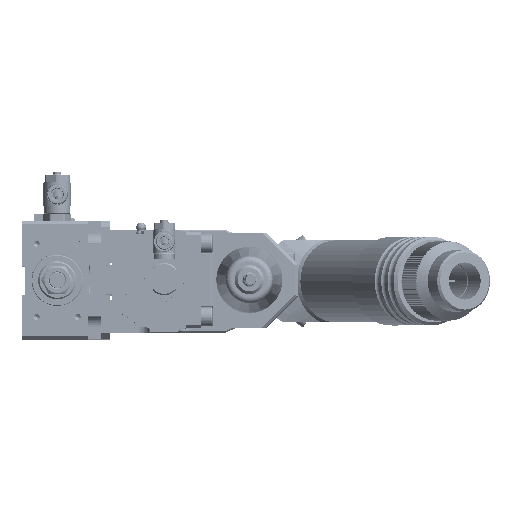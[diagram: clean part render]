
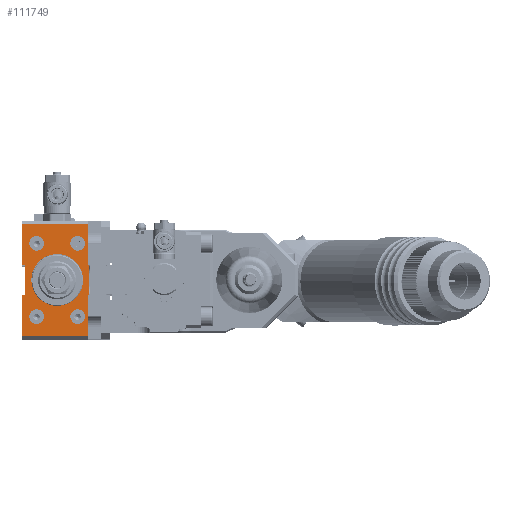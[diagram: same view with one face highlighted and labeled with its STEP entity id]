
A CAD part, top view. The second image highlights one B-rep face of the part: STEP entity #111749.
In plain terms, the highlighted planar face has unit normal (0, 0, 1).
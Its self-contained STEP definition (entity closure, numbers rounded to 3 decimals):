
#4628=FACE_BOUND('',#20022,.T.);
#4629=FACE_BOUND('',#20023,.T.);
#4630=FACE_BOUND('',#20024,.T.);
#4631=FACE_BOUND('',#20025,.T.);
#4632=FACE_BOUND('',#20026,.T.);
#6862=PLANE('',#120246);
#13519=FACE_OUTER_BOUND('',#20021,.T.);
#20021=EDGE_LOOP('',(#92311,#92312,#92313,#92314,#92315,#92316,#92317,#92318,
#92319,#92320,#92321,#92322));
#20022=EDGE_LOOP('',(#92323,#92324));
#20023=EDGE_LOOP('',(#92325,#92326));
#20024=EDGE_LOOP('',(#92327,#92328));
#20025=EDGE_LOOP('',(#92329,#92330));
#20026=EDGE_LOOP('',(#92331));
#27739=LINE('',#337680,#35882);
#27742=LINE('',#337686,#35885);
#27744=LINE('',#337690,#35887);
#27745=LINE('',#337692,#35888);
#27746=LINE('',#337694,#35889);
#27747=LINE('',#337696,#35890);
#27748=LINE('',#337698,#35891);
#27749=LINE('',#337700,#35892);
#27750=LINE('',#337702,#35893);
#27751=LINE('',#337704,#35894);
#27752=LINE('',#337706,#35895);
#27753=LINE('',#337707,#35896);
#35882=VECTOR('',#142389,10.);
#35885=VECTOR('',#142394,10.);
#35887=VECTOR('',#142398,10.);
#35888=VECTOR('',#142399,10.);
#35889=VECTOR('',#142400,10.);
#35890=VECTOR('',#142401,10.);
#35891=VECTOR('',#142402,10.);
#35892=VECTOR('',#142403,10.);
#35893=VECTOR('',#142404,10.);
#35894=VECTOR('',#142405,10.);
#35895=VECTOR('',#142406,10.);
#35896=VECTOR('',#142407,10.);
#41448=CIRCLE('',#120210,5.);
#41449=CIRCLE('',#120211,5.);
#41454=CIRCLE('',#120219,5.);
#41455=CIRCLE('',#120220,5.);
#41460=CIRCLE('',#120228,5.);
#41461=CIRCLE('',#120229,5.);
#41466=CIRCLE('',#120237,5.);
#41467=CIRCLE('',#120238,5.);
#41470=CIRCLE('',#120247,17.65);
#50717=VERTEX_POINT('',#337581);
#50718=VERTEX_POINT('',#337582);
#50723=VERTEX_POINT('',#337598);
#50724=VERTEX_POINT('',#337599);
#50729=VERTEX_POINT('',#337615);
#50730=VERTEX_POINT('',#337616);
#50735=VERTEX_POINT('',#337632);
#50736=VERTEX_POINT('',#337633);
#50754=VERTEX_POINT('',#337677);
#50755=VERTEX_POINT('',#337679);
#50757=VERTEX_POINT('',#337684);
#50758=VERTEX_POINT('',#337689);
#50759=VERTEX_POINT('',#337691);
#50760=VERTEX_POINT('',#337693);
#50761=VERTEX_POINT('',#337695);
#50762=VERTEX_POINT('',#337697);
#50763=VERTEX_POINT('',#337699);
#50764=VERTEX_POINT('',#337701);
#50765=VERTEX_POINT('',#337703);
#50766=VERTEX_POINT('',#337705);
#50767=VERTEX_POINT('',#337708);
#65182=EDGE_CURVE('',#50717,#50718,#41448,.T.);
#65183=EDGE_CURVE('',#50718,#50717,#41449,.T.);
#65190=EDGE_CURVE('',#50723,#50724,#41454,.T.);
#65191=EDGE_CURVE('',#50724,#50723,#41455,.T.);
#65198=EDGE_CURVE('',#50729,#50730,#41460,.T.);
#65199=EDGE_CURVE('',#50730,#50729,#41461,.T.);
#65206=EDGE_CURVE('',#50735,#50736,#41466,.T.);
#65207=EDGE_CURVE('',#50736,#50735,#41467,.T.);
#65229=EDGE_CURVE('',#50755,#50754,#27739,.T.);
#65232=EDGE_CURVE('',#50757,#50754,#27742,.T.);
#65234=EDGE_CURVE('',#50757,#50758,#27744,.T.);
#65235=EDGE_CURVE('',#50758,#50759,#27745,.T.);
#65236=EDGE_CURVE('',#50759,#50760,#27746,.T.);
#65237=EDGE_CURVE('',#50760,#50761,#27747,.T.);
#65238=EDGE_CURVE('',#50761,#50762,#27748,.T.);
#65239=EDGE_CURVE('',#50763,#50762,#27749,.T.);
#65240=EDGE_CURVE('',#50763,#50764,#27750,.T.);
#65241=EDGE_CURVE('',#50764,#50765,#27751,.T.);
#65242=EDGE_CURVE('',#50765,#50766,#27752,.T.);
#65243=EDGE_CURVE('',#50766,#50755,#27753,.T.);
#65244=EDGE_CURVE('',#50767,#50767,#41470,.T.);
#92311=ORIENTED_EDGE('',*,*,#65232,.F.);
#92312=ORIENTED_EDGE('',*,*,#65234,.T.);
#92313=ORIENTED_EDGE('',*,*,#65235,.T.);
#92314=ORIENTED_EDGE('',*,*,#65236,.T.);
#92315=ORIENTED_EDGE('',*,*,#65237,.T.);
#92316=ORIENTED_EDGE('',*,*,#65238,.T.);
#92317=ORIENTED_EDGE('',*,*,#65239,.F.);
#92318=ORIENTED_EDGE('',*,*,#65240,.T.);
#92319=ORIENTED_EDGE('',*,*,#65241,.T.);
#92320=ORIENTED_EDGE('',*,*,#65242,.T.);
#92321=ORIENTED_EDGE('',*,*,#65243,.T.);
#92322=ORIENTED_EDGE('',*,*,#65229,.T.);
#92323=ORIENTED_EDGE('',*,*,#65182,.T.);
#92324=ORIENTED_EDGE('',*,*,#65183,.T.);
#92325=ORIENTED_EDGE('',*,*,#65190,.T.);
#92326=ORIENTED_EDGE('',*,*,#65191,.T.);
#92327=ORIENTED_EDGE('',*,*,#65198,.T.);
#92328=ORIENTED_EDGE('',*,*,#65199,.T.);
#92329=ORIENTED_EDGE('',*,*,#65206,.T.);
#92330=ORIENTED_EDGE('',*,*,#65207,.T.);
#92331=ORIENTED_EDGE('',*,*,#65244,.T.);
#111749=ADVANCED_FACE('',(#13519,#4628,#4629,#4630,#4631,#4632),#6862,.T.);
#120210=AXIS2_PLACEMENT_3D('',#337583,#142294,#142295);
#120211=AXIS2_PLACEMENT_3D('',#337584,#142296,#142297);
#120219=AXIS2_PLACEMENT_3D('',#337600,#142314,#142315);
#120220=AXIS2_PLACEMENT_3D('',#337601,#142316,#142317);
#120228=AXIS2_PLACEMENT_3D('',#337617,#142334,#142335);
#120229=AXIS2_PLACEMENT_3D('',#337618,#142336,#142337);
#120237=AXIS2_PLACEMENT_3D('',#337634,#142354,#142355);
#120238=AXIS2_PLACEMENT_3D('',#337635,#142356,#142357);
#120246=AXIS2_PLACEMENT_3D('',#337688,#142396,#142397);
#120247=AXIS2_PLACEMENT_3D('',#337709,#142408,#142409);
#142294=DIRECTION('center_axis',(0.,0.,
-1.));
#142295=DIRECTION('ref_axis',(0.,-1.,0.));
#142296=DIRECTION('center_axis',(0.,0.,
-1.));
#142297=DIRECTION('ref_axis',(0.,-1.,0.));
#142314=DIRECTION('center_axis',(0.,0.,
-1.));
#142315=DIRECTION('ref_axis',(0.,-1.,0.));
#142316=DIRECTION('center_axis',(0.,0.,
-1.));
#142317=DIRECTION('ref_axis',(0.,-1.,0.));
#142334=DIRECTION('center_axis',(0.,0.,
-1.));
#142335=DIRECTION('ref_axis',(0.,-1.,0.));
#142336=DIRECTION('center_axis',(0.,0.,
-1.));
#142337=DIRECTION('ref_axis',(0.,-1.,0.));
#142354=DIRECTION('center_axis',(0.,0.,
-1.));
#142355=DIRECTION('ref_axis',(0.,-1.,0.));
#142356=DIRECTION('center_axis',(0.,0.,
-1.));
#142357=DIRECTION('ref_axis',(0.,-1.,0.));
#142389=DIRECTION('',(0.,-1.,0.));
#142394=DIRECTION('',(-1.,0.,0.));
#142396=DIRECTION('center_axis',(0.,0.,
1.));
#142397=DIRECTION('ref_axis',(0.,-1.,0.));
#142398=DIRECTION('',(0.,1.,0.));
#142399=DIRECTION('',(1.,0.,0.));
#142400=DIRECTION('',(0.,1.,0.));
#142401=DIRECTION('',(-1.,0.,0.));
#142402=DIRECTION('',(0.,1.,0.));
#142403=DIRECTION('',(1.,0.,0.));
#142404=DIRECTION('',(0.,-1.,0.));
#142405=DIRECTION('',(1.,0.,0.));
#142406=DIRECTION('',(0.,-1.,0.));
#142407=DIRECTION('',(-1.,0.,0.));
#142408=DIRECTION('center_axis',(0.,0.,
-1.));
#142409=DIRECTION('ref_axis',(0.,-1.,0.));
#337581=CARTESIAN_POINT('',(-4.,20.,485.));
#337582=CARTESIAN_POINT('',(-4.,30.,485.));
#337583=CARTESIAN_POINT('Origin',(-4.,25.,485.));
#337584=CARTESIAN_POINT('Origin',(-4.,25.,485.));
#337598=CARTESIAN_POINT('',(-32.,20.,485.));
#337599=CARTESIAN_POINT('',(-32.,30.,485.));
#337600=CARTESIAN_POINT('Origin',(-32.,25.,485.));
#337601=CARTESIAN_POINT('Origin',(-32.,25.,485.));
#337615=CARTESIAN_POINT('',(-32.,-30.,485.));
#337616=CARTESIAN_POINT('',(-32.,-20.,485.));
#337617=CARTESIAN_POINT('Origin',(-32.,-25.,485.));
#337618=CARTESIAN_POINT('Origin',(-32.,-25.,485.));
#337632=CARTESIAN_POINT('',(-4.,-30.,485.));
#337633=CARTESIAN_POINT('',(-4.,-20.,485.));
#337634=CARTESIAN_POINT('Origin',(-4.,-25.,485.));
#337635=CARTESIAN_POINT('Origin',(-4.,-25.,485.));
#337677=CARTESIAN_POINT('',(-42.,-38.,485.));
#337679=CARTESIAN_POINT('',(-42.,-10.,485.));
#337680=CARTESIAN_POINT('',(-42.,-10.,485.));
#337684=CARTESIAN_POINT('',(3.,-38.,485.));
#337686=CARTESIAN_POINT('',(-8.211,-38.,485.));
#337688=CARTESIAN_POINT('Origin',(-19.422,0.,
485.));
#337689=CARTESIAN_POINT('',(3.,-10.,485.));
#337690=CARTESIAN_POINT('',(3.,-40.,485.));
#337691=CARTESIAN_POINT('',(4.,-10.,485.));
#337692=CARTESIAN_POINT('',(3.,-10.,485.));
#337693=CARTESIAN_POINT('',(4.,10.,485.));
#337694=CARTESIAN_POINT('',(4.,-10.,485.));
#337695=CARTESIAN_POINT('',(3.,10.,485.));
#337696=CARTESIAN_POINT('',(4.,10.,485.));
#337697=CARTESIAN_POINT('',(3.,38.,485.));
#337698=CARTESIAN_POINT('',(3.,10.,485.));
#337699=CARTESIAN_POINT('',(-42.,38.,485.));
#337700=CARTESIAN_POINT('',(-30.711,38.,485.));
#337701=CARTESIAN_POINT('',(-42.,10.,485.));
#337702=CARTESIAN_POINT('',(-42.,40.,485.));
#337703=CARTESIAN_POINT('',(-40.,10.,485.));
#337704=CARTESIAN_POINT('',(-42.,10.,485.));
#337705=CARTESIAN_POINT('',(-40.,-10.,485.));
#337706=CARTESIAN_POINT('',(-40.,10.,485.));
#337707=CARTESIAN_POINT('',(-40.,-10.,485.));
#337708=CARTESIAN_POINT('',(-18.,17.65,485.));
#337709=CARTESIAN_POINT('Origin',(-18.,0.,
485.));
